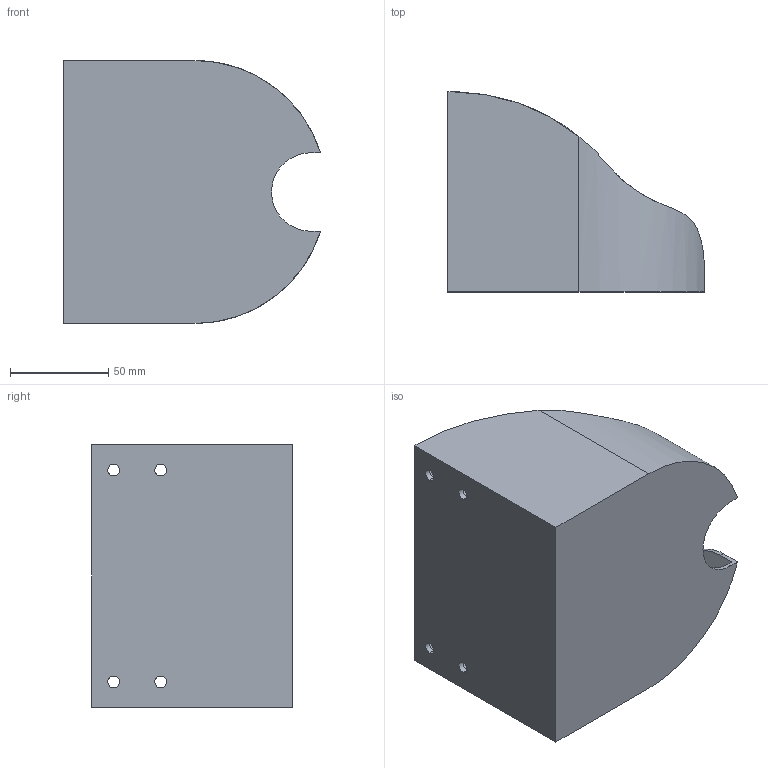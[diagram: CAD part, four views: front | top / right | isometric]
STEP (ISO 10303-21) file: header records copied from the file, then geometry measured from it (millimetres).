
FILE_DESCRIPTION (( 'STEP AP214' ), '1' );
FILE_NAME ('125mm grinding disc holder CC12 pegboard_1-0.STEP', '2025-12-14T07:55:07', ( '' ), ( '' ), 'SwSTEP 2.0', 'SolidWorks 2025', '' );
FILE_SCHEMA (( 'AUTOMOTIVE_DESIGN' ));
Length unit declared in the file: millimetre
Products named in the file (1): 125mm grinding disc holder CC12 pegboard_1-0
Bounding box: 130.95 x 102 x 134 mm (x, y, z)
Volume: 230374 mm3; surface area: 95706.1 mm2
Topology: 1 solids, 1 shells, 56 faces, 155 edges, 101 vertices
Faces by surface type: cylinder 28, plane 16, cone 8, torus 4
Entity records: 2205 total; most frequent: CARTESIAN_POINT 751, ORIENTED_EDGE 310, DIRECTION 288, EDGE_CURVE 155, AXIS2_PLACEMENT_3D 110, VERTEX_POINT 101, VECTOR 68, LINE 68
